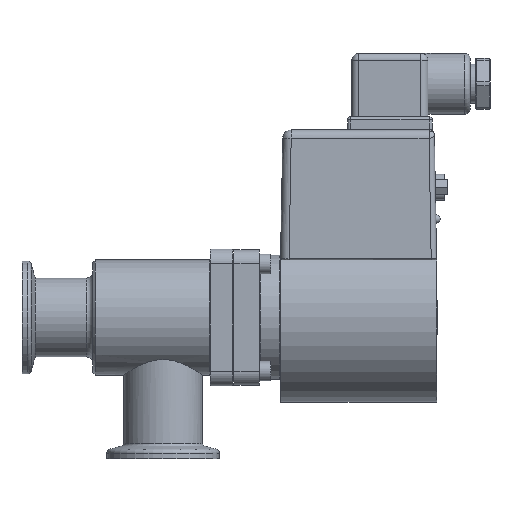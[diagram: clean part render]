
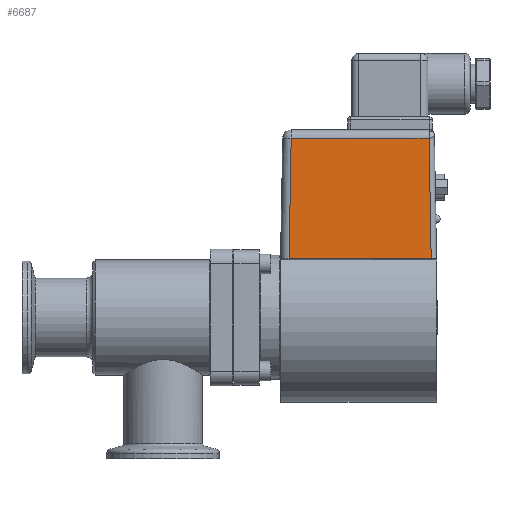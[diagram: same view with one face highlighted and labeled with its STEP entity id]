
A CAD part, front view. The second image highlights one B-rep face of the part: STEP entity #6687.
In plain terms, the highlighted planar face has unit normal (0, -1, 0.018) as drawn and (0, 1, -0.017) by its records, which use the part's own axes.
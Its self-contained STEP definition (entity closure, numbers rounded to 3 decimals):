
#1964=FACE_OUTER_BOUND('',#8717,.T.);
#2979=LINE('',#28674,#4197);
#2986=LINE('',#28923,#4204);
#2987=LINE('',#28986,#4205);
#2988=LINE('',#28988,#4206);
#4197=VECTOR('',#21889,1.);
#4204=VECTOR('',#21914,1.);
#4205=VECTOR('',#21917,1.);
#4206=VECTOR('',#21920,1.);
#5867=PLANE('',#18626);
#6687=ADVANCED_FACE('',(#1964),#5867,.T.);
#8717=EDGE_LOOP('',(#11758,#11759,#11760,#11761));
#11758=ORIENTED_EDGE('',*,*,#16166,.F.);
#11759=ORIENTED_EDGE('',*,*,#16170,.F.);
#11760=ORIENTED_EDGE('',*,*,#16147,.F.);
#11761=ORIENTED_EDGE('',*,*,#16169,.F.);
#14316=VERTEX_POINT('',#28613);
#14317=VERTEX_POINT('',#28675);
#14323=VERTEX_POINT('',#28880);
#14324=VERTEX_POINT('',#28924);
#16147=EDGE_CURVE('',#14316,#14317,#2979,.T.);
#16166=EDGE_CURVE('',#14323,#14324,#2986,.T.);
#16169=EDGE_CURVE('',#14324,#14316,#2987,.T.);
#16170=EDGE_CURVE('',#14317,#14323,#2988,.T.);
#18626=AXIS2_PLACEMENT_3D('',#28989,#21921,#21922);
#21889=DIRECTION('',(0.017,-0.017,-1.));
#21914=DIRECTION('',(0.017,0.017,1.));
#21917=DIRECTION('',(-1.,0.,0.));
#21920=DIRECTION('',(1.,0.,0.));
#21921=DIRECTION('',(0.,1.,-0.017));
#21922=DIRECTION('',(1.,0.,0.));
#28613=CARTESIAN_POINT('',(3.008,23.992,-20.854));
#28674=CARTESIAN_POINT('',(3.008,23.992,-20.854));
#28675=CARTESIAN_POINT('',(3.753,23.247,-63.552));
#28880=CARTESIAN_POINT('',(52.647,23.247,-63.552));
#28923=CARTESIAN_POINT('',(52.647,23.247,-63.552));
#28924=CARTESIAN_POINT('',(53.392,23.992,-20.854));
#28986=CARTESIAN_POINT('',(53.392,23.992,-20.854));
#28988=CARTESIAN_POINT('',(3.753,23.247,-63.552));
#28989=CARTESIAN_POINT('',(-0.6,24.,-20.396));
